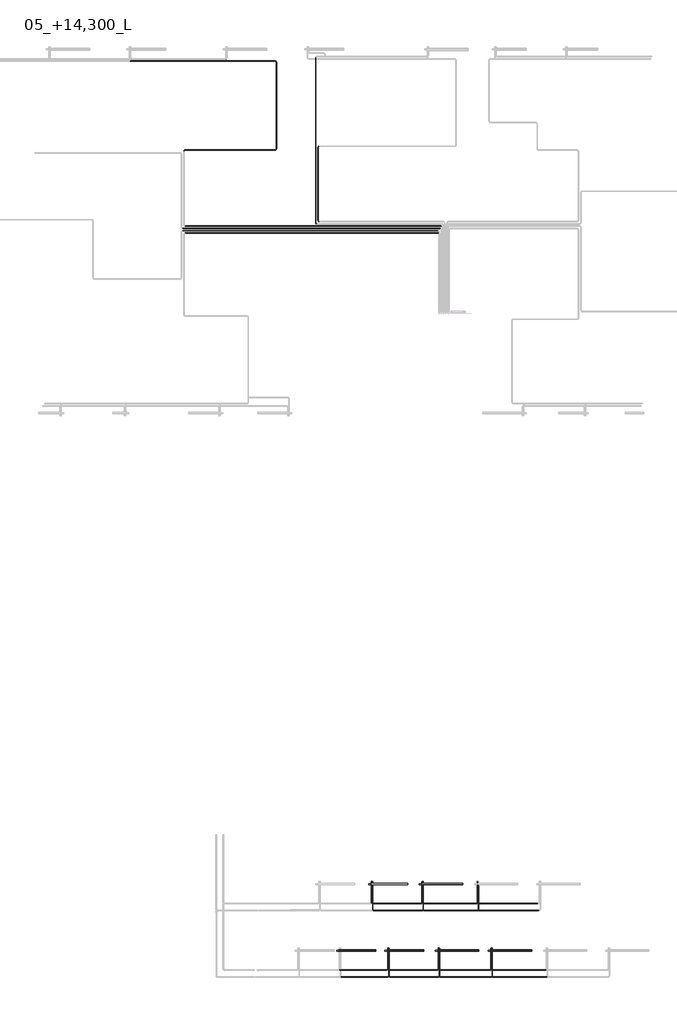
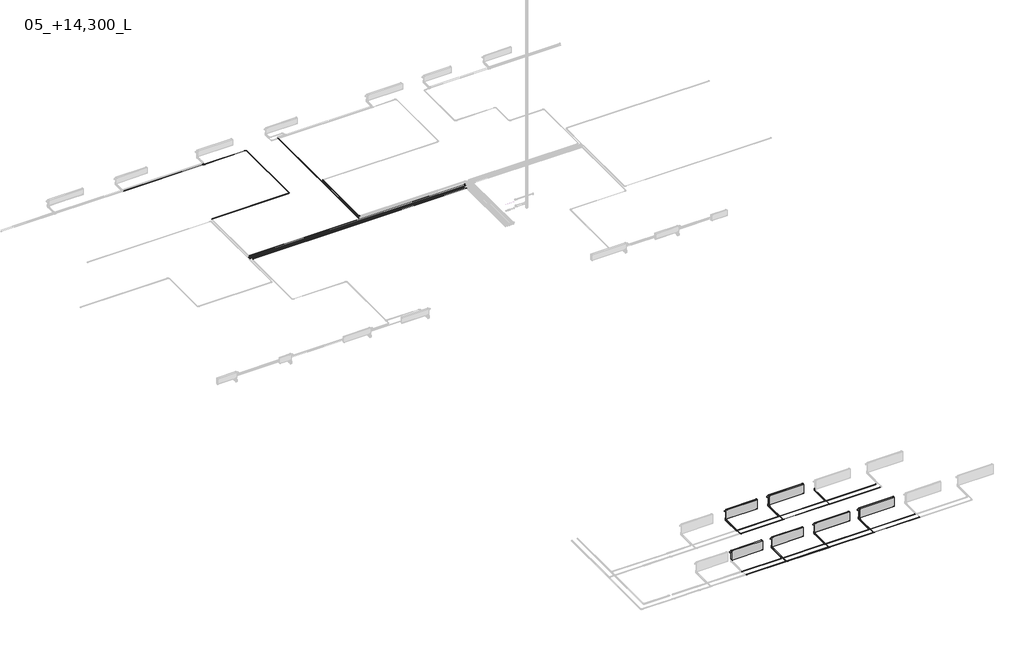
# One storey, part 8 of 15: 36 pipe segments, 18 pipe fittings, 6 proxies, 6 valves.
"""IFC4 building model written with IfcOpenShell, lengths in millimetres."""

from ifc_helpers import new_model, si_unit, point, frame, frame_2d, origin, place, context, project, spatial, circle_curve, trimmed, segment, composite_curve, outline, extrude, transform, mapped, element, save
from components import mechanical_equipment_88dabea2, mechanical_equipment_4d71ee0d, mechanical_equipment_2e3e853b, pipe_fitting_44bd76dc, pipe_fitting_8f811e63, pipe_fitting_d927fdfb, valve_d3faaedd, valve_8453c3c0

model = new_model("IFC4")

# Units and contexts
model_context = context("Model", 3, world=origin())
ifc_project = project(units=[si_unit("LENGTHUNIT", "METRE", prefix="MILLI")], contexts=[model_context])

# Site, building, storey
site = spatial("IfcSite", under=ifc_project)
building = spatial("IfcBuilding", under=site)
storey = spatial("IfcBuildingStorey", under=building, Name="05_+14,300_L", Elevation=14300.0)

# Proxies
placement = place(None, origin())
mechanical_equipment_shape = mechanical_equipment_88dabea2(model_context)
element("IfcBuildingElementProxy", 1, Name="EVRA CV Д : 11-500-1600", ObjectType="EVRA CV Д : 11-500-1600", at=placement, inside=storey, context=model_context, shape_type="MappedRepresentation", body=[
    mapped(mechanical_equipment_shape, transform((65435.0, 92114.7933297, 14300.0), x_axis=(1.0, 0.0, 0.0), y_axis=(0.0, 1.0, 0.0), z_axis=(0.0, 0.0, 1.0))),
])
element("IfcBuildingElementProxy", 2, Name="EVRA CV Д : 11-500-1600", ObjectType="EVRA CV Д : 11-500-1600", at=placement, inside=storey, context=model_context, shape_type="MappedRepresentation", body=[
    mapped(mechanical_equipment_shape, transform((66135.0, 89214.7933297, 14300.0), x_axis=(1.0, 0.0, 0.0), y_axis=(0.0, 1.0, 0.0), z_axis=(0.0, 0.0, 1.0))),
])
element("IfcBuildingElementProxy", 3, Name="EVRA CV Д : 11-500-1600", ObjectType="EVRA CV Д : 11-500-1600", at=placement, inside=storey, context=model_context, shape_type="MappedRepresentation", body=[
    mapped(mechanical_equipment_shape, transform((64035.0, 89214.7933297, 14300.0), x_axis=(1.0, 0.0, 0.0), y_axis=(0.0, 1.0, 0.0), z_axis=(0.0, 0.0, 1.0))),
])
mechanical_equipment_2_shape = mechanical_equipment_4d71ee0d(model_context)
element("IfcBuildingElementProxy", 4, Name="EVRA CV Д : 21-500-1800", ObjectType="EVRA CV Д : 21-500-1800", at=placement, inside=storey, context=model_context, shape_type="MappedRepresentation", body=[
    mapped(mechanical_equipment_2_shape, transform((67735.0, 92114.7933297, 14300.0), x_axis=(1.0, 0.0, 0.0), y_axis=(0.0, 1.0, 0.0), z_axis=(0.0, 0.0, 1.0))),
])
element("IfcBuildingElementProxy", 5, Name="EVRA CV Д : 21-500-1800", ObjectType="EVRA CV Д : 21-500-1800", at=placement, inside=storey, context=model_context, shape_type="MappedRepresentation", body=[
    mapped(mechanical_equipment_2_shape, transform((70735.0, 89214.7933297, 14300.0), x_axis=(1.0, 0.0, 0.0), y_axis=(0.0, 1.0, 0.0), z_axis=(0.0, 0.0, 1.0))),
])
mechanical_equipment_3_shape = mechanical_equipment_2e3e853b(model_context)
element("IfcBuildingElementProxy", 6, Name="EVRA CV Д : 11-500-1800", ObjectType="EVRA CV Д : 11-500-1800", at=placement, inside=storey, context=model_context, shape_type="MappedRepresentation", body=[
    mapped(mechanical_equipment_3_shape, transform((68435.0, 89214.7933297, 14300.0), x_axis=(1.0, 0.0, 0.0), y_axis=(0.0, 1.0, 0.0), z_axis=(0.0, 0.0, 1.0))),
])

# Pipe fittings
pipe_fitting_shape = pipe_fitting_44bd76dc(model_context)
element("IfcPipeFitting", 7, ObjectType="ADSK_Пресс-фитинг ПЭ_Тройник : Пластик черный", at=placement, inside=storey, context=model_context, shape_type="MappedRepresentation", body=[
    mapped(pipe_fitting_shape, transform((58530.0, 127900.0, 14250.0), x_axis=(1.0, 0.0, 0.0), y_axis=(0.0, -1.0, 0.0), z_axis=(0.0, 0.0, -1.0))),
])
pipe_fitting_2_shape = pipe_fitting_8f811e63(model_context)
element("IfcPipeFitting", 8, ObjectType="ADSK_Пресс-фитинг ПЭ_Поворот с фиксатором : Поворот трубы", at=placement, inside=storey, context=model_context, shape_type="MappedRepresentation", body=[
    mapped(pipe_fitting_2_shape, transform((60730.0, 127900.0, 14250.0), x_axis=(0.0, 1.0, 0.0), y_axis=(-1.0, 0.0, 0.0), z_axis=(0.0, 0.0, 1.0))),
])
element("IfcPipeFitting", 9, ObjectType="ADSK_Пресс-фитинг ПЭ_Поворот с фиксатором : Поворот трубы", at=placement, inside=storey, context=model_context, shape_type="MappedRepresentation", body=[
    mapped(pipe_fitting_2_shape, transform((62535.0, 124200.0, 14250.0), x_axis=(-1.0, 0.0, 0.0), y_axis=(0.0, -1.0, 0.0), z_axis=(0.0, 0.0, 1.0))),
])
element("IfcPipeFitting", 10, ObjectType="ADSK_Пресс-фитинг ПЭ_Поворот с фиксатором : Поворот трубы", at=placement, inside=storey, context=model_context, shape_type="MappedRepresentation", body=[
    mapped(pipe_fitting_2_shape, transform((62435.0, 120821.8369308, 14250.0), x_axis=(0.0, -1.0, 0.0), y_axis=(1.0, 0.0, 0.0), z_axis=(0.0, 0.0, 1.0))),
])
element("IfcPipeFitting", 11, ObjectType="ADSK_Пресс-фитинг ПЭ_Поворот с фиксатором : Поворот трубы", at=placement, inside=storey, context=model_context, shape_type="MappedRepresentation", body=[
    mapped(pipe_fitting_2_shape, transform((62535.0, 120921.8369308, 14250.0), x_axis=(0.0, -1.0, 0.0), y_axis=(1.0, 0.0, 0.0), z_axis=(0.0, 0.0, 1.0))),
])
element("IfcPipeFitting", 12, ObjectType="ADSK_Пресс-фитинг ПЭ_Поворот с фиксатором : Поворот трубы", at=placement, inside=storey, context=model_context, shape_type="MappedRepresentation", body=[
    mapped(pipe_fitting_2_shape, transform((60730.0, 124040.0, 14250.0), x_axis=(1.0, 0.0, 0.0), y_axis=(0.0, 1.0, 0.0), z_axis=(0.0, 0.0, 1.0))),
])
element("IfcPipeFitting", 13, ObjectType="ADSK_Пресс-фитинг ПЭ_Поворот с фиксатором : Поворот трубы", at=placement, inside=storey, context=model_context, shape_type="MappedRepresentation", body=[
    mapped(pipe_fitting_2_shape, transform((56700.0, 124040.0, 14250.0), x_axis=(-1.0, 0.0, 0.0), y_axis=(0.0, -1.0, 0.0), z_axis=(0.0, 0.0, 1.0))),
])
pipe_fitting_3_shape = pipe_fitting_d927fdfb(model_context)
element("IfcPipeFitting", 14, ObjectType="Трубка Г-образная VTm.481.PC из стены : VTm.481.PC", at=placement, inside=storey, context=model_context, shape_type="MappedRepresentation", body=[
    mapped(pipe_fitting_3_shape, transform((64865.0, 92164.2564399, 14250.0), x_axis=(1.0, 0.0, 0.0), y_axis=(0.0, 1.0, 0.0), z_axis=(0.0, 0.0, 1.0))),
])
element("IfcPipeFitting", 15, ObjectType="Трубка Г-образная VTm.481.PC из стены : VTm.481.PC", at=placement, inside=storey, context=model_context, shape_type="MappedRepresentation", body=[
    mapped(pipe_fitting_3_shape, transform((64915.0, 92164.2564399, 14250.0), x_axis=(1.0, 0.0, 0.0), y_axis=(0.0, 1.0, 0.0), z_axis=(0.0, 0.0, 1.0))),
])
element("IfcPipeFitting", 16, ObjectType="Трубка Г-образная VTm.481.PC из стены : VTm.481.PC", at=placement, inside=storey, context=model_context, shape_type="MappedRepresentation", body=[
    mapped(pipe_fitting_3_shape, transform((67065.0, 92164.2564399, 14250.0), x_axis=(1.0, 0.0, 0.0), y_axis=(0.0, 1.0, 0.0), z_axis=(0.0, 0.0, 1.0))),
])
element("IfcPipeFitting", 17, ObjectType="Трубка Г-образная VTm.481.PC из стены : VTm.481.PC", at=placement, inside=storey, context=model_context, shape_type="MappedRepresentation", body=[
    mapped(pipe_fitting_3_shape, transform((67115.0, 92164.2564399, 14250.0), x_axis=(1.0, 0.0, 0.0), y_axis=(0.0, 1.0, 0.0), z_axis=(0.0, 0.0, 1.0))),
])
element("IfcPipeFitting", 18, ObjectType="Трубка Г-образная VTm.481.PC из стены : VTm.481.PC", at=placement, inside=storey, context=model_context, shape_type="MappedRepresentation", body=[
    mapped(pipe_fitting_3_shape, transform((69465.0, 92164.2564399, 14250.0), x_axis=(1.0, 0.0, 0.0), y_axis=(0.0, 1.0, 0.0), z_axis=(0.0, 0.0, 1.0))),
])
element("IfcPipeFitting", 19, ObjectType="Трубка Г-образная VTm.481.PC из стены : VTm.481.PC", at=placement, inside=storey, context=model_context, shape_type="MappedRepresentation", body=[
    mapped(pipe_fitting_3_shape, transform((65565.0, 89264.2564399, 14250.0), x_axis=(1.0, 0.0, 0.0), y_axis=(0.0, 1.0, 0.0), z_axis=(0.0, 0.0, 1.0))),
])
element("IfcPipeFitting", 20, ObjectType="Трубка Г-образная VTm.481.PC из стены : VTm.481.PC", at=placement, inside=storey, context=model_context, shape_type="MappedRepresentation", body=[
    mapped(pipe_fitting_3_shape, transform((65615.0, 89264.2564399, 14250.0), x_axis=(1.0, 0.0, 0.0), y_axis=(0.0, 1.0, 0.0), z_axis=(0.0, 0.0, 1.0))),
])
element("IfcPipeFitting", 21, ObjectType="Трубка Г-образная VTm.481.PC из стены : VTm.481.PC", at=placement, inside=storey, context=model_context, shape_type="MappedRepresentation", body=[
    mapped(pipe_fitting_3_shape, transform((67765.0, 89264.2564399, 14250.0), x_axis=(1.0, 0.0, 0.0), y_axis=(0.0, 1.0, 0.0), z_axis=(0.0, 0.0, 1.0))),
])
element("IfcPipeFitting", 22, ObjectType="Трубка Г-образная VTm.481.PC из стены : VTm.481.PC", at=placement, inside=storey, context=model_context, shape_type="MappedRepresentation", body=[
    mapped(pipe_fitting_3_shape, transform((67815.0, 89264.2564399, 14250.0), x_axis=(1.0, 0.0, 0.0), y_axis=(0.0, 1.0, 0.0), z_axis=(0.0, 0.0, 1.0))),
])
element("IfcPipeFitting", 23, ObjectType="Трубка Г-образная VTm.481.PC из стены : VTm.481.PC", at=placement, inside=storey, context=model_context, shape_type="MappedRepresentation", body=[
    mapped(pipe_fitting_3_shape, transform((70065.0, 89264.2564399, 14250.0), x_axis=(1.0, 0.0, 0.0), y_axis=(0.0, 1.0, 0.0), z_axis=(0.0, 0.0, 1.0))),
])
element("IfcPipeFitting", 24, ObjectType="Трубка Г-образная VTm.481.PC из стены : VTm.481.PC", at=placement, inside=storey, context=model_context, shape_type="MappedRepresentation", body=[
    mapped(pipe_fitting_3_shape, transform((70115.0, 89264.2564399, 14250.0), x_axis=(1.0, 0.0, 0.0), y_axis=(0.0, 1.0, 0.0), z_axis=(0.0, 0.0, 1.0))),
])

# Pipe segments
element("IfcPipeSegment", 25, ObjectType="ADSK_Полиэтилен сшитый", at=placement, inside=storey, context=model_context, shape_type="SweptSolid", body=[
    extrude(outline(composite_curve([segment(trimmed(circle_curve(frame_2d((124040.0, 14250.0)), 8.0), [point((124048.0, 14250.0))], [point((124040.0, 14242.0))], False, "CARTESIAN"), True, "CONTINUOUS"), segment(trimmed(circle_curve(frame_2d((124040.0, 14250.0)), 8.0), [point((124040.0, 14242.0))], [point((124032.0, 14250.0))], False, "CARTESIAN"), True, "CONTINUOUS"), segment(trimmed(circle_curve(frame_2d((124040.0, 14250.0)), 8.0), [point((124032.0, 14250.0))], [point((124040.0, 14258.0))], False, "CARTESIAN"), True, "CONTINUOUS"), segment(trimmed(circle_curve(frame_2d((124040.0, 14250.0)), 8.0), [point((124040.0, 14258.0))], [point((124048.0, 14250.0))], False, "CARTESIAN"), True, "CONTINUOUS")], self_intersect=False)), frame((56748.0, 0.0, 0.0), z_axis=(1.0, 0.0, 0.0), x_axis=(0.0, 1.0, 0.0)), (0.0, 0.0, 1.0), 3934.0),
])
element("IfcPipeSegment", 26, ObjectType="ADSK_Полиэтилен сшитый", at=placement, inside=storey, context=model_context, shape_type="SweptSolid", body=[
    extrude(outline(composite_curve([segment(trimmed(circle_curve(frame_2d((14250.0, 60730.0)), 8.0), [point((14250.0, 60738.0))], [point((14258.0, 60730.0))], False, "CARTESIAN"), True, "CONTINUOUS"), segment(trimmed(circle_curve(frame_2d((14250.0, 60730.0)), 8.0), [point((14258.0, 60730.0))], [point((14250.0, 60722.0))], False, "CARTESIAN"), True, "CONTINUOUS"), segment(trimmed(circle_curve(frame_2d((14250.0, 60730.0)), 8.0), [point((14250.0, 60722.0))], [point((14242.0, 60730.0))], False, "CARTESIAN"), True, "CONTINUOUS"), segment(trimmed(circle_curve(frame_2d((14250.0, 60730.0)), 8.0), [point((14242.0, 60730.0))], [point((14250.0, 60738.0))], False, "CARTESIAN"), True, "CONTINUOUS")], self_intersect=False)), frame((0.0, 124088.0, 0.0), z_axis=(0.0, 1.0, 0.0), x_axis=(0.0, 0.0, 1.0)), (0.0, 0.0, 1.0), 3764.0),
])
element("IfcPipeSegment", 27, ObjectType="ADSK_Полиэтилен сшитый", at=placement, inside=storey, context=model_context, shape_type="SweptSolid", body=[
    extrude(outline(composite_curve([segment(trimmed(circle_curve(frame_2d((127900.0, 14250.0)), 8.0), [point((127908.0, 14250.0))], [point((127900.0, 14242.0))], False, "CARTESIAN"), True, "CONTINUOUS"), segment(trimmed(circle_curve(frame_2d((127900.0, 14250.0)), 8.0), [point((127900.0, 14242.0))], [point((127892.0, 14250.0))], False, "CARTESIAN"), True, "CONTINUOUS"), segment(trimmed(circle_curve(frame_2d((127900.0, 14250.0)), 8.0), [point((127892.0, 14250.0))], [point((127900.0, 14258.0))], False, "CARTESIAN"), True, "CONTINUOUS"), segment(trimmed(circle_curve(frame_2d((127900.0, 14250.0)), 8.0), [point((127900.0, 14258.0))], [point((127908.0, 14250.0))], False, "CARTESIAN"), True, "CONTINUOUS")], self_intersect=False)), frame((58549.0, 0.0, 0.0), z_axis=(1.0, 0.0, 0.0), x_axis=(0.0, 1.0, 0.0)), (0.0, 0.0, 1.0), 2133.0),
])
element("IfcPipeSegment", 28, ObjectType="ADSK_Полиэтилен сшитый", at=placement, inside=storey, context=model_context, shape_type="SweptSolid", body=[
    extrude(outline(composite_curve([segment(trimmed(circle_curve(frame_2d((14250.0, 62435.0)), 8.0), [point((14250.0, 62443.0))], [point((14258.0, 62435.0))], False, "CARTESIAN"), True, "CONTINUOUS"), segment(trimmed(circle_curve(frame_2d((14250.0, 62435.0)), 8.0), [point((14258.0, 62435.0))], [point((14250.0, 62427.0))], False, "CARTESIAN"), True, "CONTINUOUS"), segment(trimmed(circle_curve(frame_2d((14250.0, 62435.0)), 8.0), [point((14250.0, 62427.0))], [point((14242.0, 62435.0))], False, "CARTESIAN"), True, "CONTINUOUS"), segment(trimmed(circle_curve(frame_2d((14250.0, 62435.0)), 8.0), [point((14242.0, 62435.0))], [point((14250.0, 62443.0))], False, "CARTESIAN"), True, "CONTINUOUS")], self_intersect=False)), frame((0.0, 120869.8369308, 0.0), z_axis=(0.0, 1.0, 0.0), x_axis=(0.0, 0.0, 1.0)), (0.0, 0.0, 1.0), 7182.1630692),
])
element("IfcPipeSegment", 29, ObjectType="ADSK_Полиэтилен сшитый", at=placement, inside=storey, context=model_context, shape_type="SweptSolid", body=[
    extrude(outline(composite_curve([segment(trimmed(circle_curve(frame_2d((14250.0, 62535.0)), 8.0), [point((14250.0, 62543.0))], [point((14258.0, 62535.0))], False, "CARTESIAN"), True, "CONTINUOUS"), segment(trimmed(circle_curve(frame_2d((14250.0, 62535.0)), 8.0), [point((14258.0, 62535.0))], [point((14250.0, 62527.0))], False, "CARTESIAN"), True, "CONTINUOUS"), segment(trimmed(circle_curve(frame_2d((14250.0, 62535.0)), 8.0), [point((14250.0, 62527.0))], [point((14242.0, 62535.0))], False, "CARTESIAN"), True, "CONTINUOUS"), segment(trimmed(circle_curve(frame_2d((14250.0, 62535.0)), 8.0), [point((14242.0, 62535.0))], [point((14250.0, 62543.0))], False, "CARTESIAN"), True, "CONTINUOUS")], self_intersect=False)), frame((0.0, 120969.8369308, 0.0), z_axis=(0.0, 1.0, 0.0), x_axis=(0.0, 0.0, 1.0)), (0.0, 0.0, 1.0), 3182.1630692),
])
element("IfcPipeSegment", 30, ObjectType="ADSK_Полиэтилен сшитый", at=placement, inside=storey, context=model_context, shape_type="SweptSolid", body=[
    extrude(outline(composite_curve([segment(trimmed(circle_curve(frame_2d((120721.8369308, 14250.0)), 8.0), [point((120729.8369308, 14250.0))], [point((120721.8369308, 14242.0))], False, "CARTESIAN"), True, "CONTINUOUS"), segment(trimmed(circle_curve(frame_2d((120721.8369308, 14250.0)), 8.0), [point((120721.8369308, 14242.0))], [point((120713.8369308, 14250.0))], False, "CARTESIAN"), True, "CONTINUOUS"), segment(trimmed(circle_curve(frame_2d((120721.8369308, 14250.0)), 8.0), [point((120713.8369308, 14250.0))], [point((120721.8369308, 14258.0))], False, "CARTESIAN"), True, "CONTINUOUS"), segment(trimmed(circle_curve(frame_2d((120721.8369308, 14250.0)), 8.0), [point((120721.8369308, 14258.0))], [point((120729.8369308, 14250.0))], False, "CARTESIAN"), True, "CONTINUOUS")], self_intersect=False)), frame((56748.0, 0.0, 0.0), z_axis=(1.0, 0.0, 0.0), x_axis=(0.0, 1.0, 0.0)), (0.0, 0.0, 1.0), 11149.0),
])
element("IfcPipeSegment", 31, ObjectType="ADSK_Полиэтилен сшитый", at=placement, inside=storey, context=model_context, shape_type="SweptSolid", body=[
    extrude(outline(composite_curve([segment(trimmed(circle_curve(frame_2d((120621.8369308, 14250.0)), 8.0), [point((120629.8369308, 14250.0))], [point((120621.8369308, 14242.0))], False, "CARTESIAN"), True, "CONTINUOUS"), segment(trimmed(circle_curve(frame_2d((120621.8369308, 14250.0)), 8.0), [point((120621.8369308, 14242.0))], [point((120613.8369308, 14250.0))], False, "CARTESIAN"), True, "CONTINUOUS"), segment(trimmed(circle_curve(frame_2d((120621.8369308, 14250.0)), 8.0), [point((120613.8369308, 14250.0))], [point((120621.8369308, 14258.0))], False, "CARTESIAN"), True, "CONTINUOUS"), segment(trimmed(circle_curve(frame_2d((120621.8369308, 14250.0)), 8.0), [point((120621.8369308, 14258.0))], [point((120629.8369308, 14250.0))], False, "CARTESIAN"), True, "CONTINUOUS")], self_intersect=False)), frame((56648.0, 0.0, 0.0), z_axis=(1.0, 0.0, 0.0), x_axis=(0.0, 1.0, 0.0)), (0.0, 0.0, 1.0), 11199.0),
])
element("IfcPipeSegment", 32, ObjectType="ADSK_Полиэтилен сшитый", at=placement, inside=storey, context=model_context, shape_type="SweptSolid", body=[
    extrude(outline(composite_curve([segment(trimmed(circle_curve(frame_2d((120521.8369308, 14250.0)), 8.0), [point((120529.8369308, 14250.0))], [point((120521.8369308, 14242.0))], False, "CARTESIAN"), True, "CONTINUOUS"), segment(trimmed(circle_curve(frame_2d((120521.8369308, 14250.0)), 8.0), [point((120521.8369308, 14242.0))], [point((120513.8369308, 14250.0))], False, "CARTESIAN"), True, "CONTINUOUS"), segment(trimmed(circle_curve(frame_2d((120521.8369308, 14250.0)), 8.0), [point((120513.8369308, 14250.0))], [point((120521.8369308, 14258.0))], False, "CARTESIAN"), True, "CONTINUOUS"), segment(trimmed(circle_curve(frame_2d((120521.8369308, 14250.0)), 8.0), [point((120521.8369308, 14258.0))], [point((120529.8369308, 14250.0))], False, "CARTESIAN"), True, "CONTINUOUS")], self_intersect=False)), frame((56648.0, 0.0, 0.0), z_axis=(1.0, 0.0, 0.0), x_axis=(0.0, 1.0, 0.0)), (0.0, 0.0, 1.0), 11099.0),
])
element("IfcPipeSegment", 33, ObjectType="ADSK_Полиэтилен сшитый", at=placement, inside=storey, context=model_context, shape_type="SweptSolid", body=[
    extrude(outline(composite_curve([segment(trimmed(circle_curve(frame_2d((120421.8369308, 14250.0)), 8.0), [point((120429.8369308, 14250.0))], [point((120421.8369308, 14242.0))], False, "CARTESIAN"), True, "CONTINUOUS"), segment(trimmed(circle_curve(frame_2d((120421.8369308, 14250.0)), 8.0), [point((120421.8369308, 14242.0))], [point((120413.8369308, 14250.0))], False, "CARTESIAN"), True, "CONTINUOUS"), segment(trimmed(circle_curve(frame_2d((120421.8369308, 14250.0)), 8.0), [point((120413.8369308, 14250.0))], [point((120421.8369308, 14258.0))], False, "CARTESIAN"), True, "CONTINUOUS"), segment(trimmed(circle_curve(frame_2d((120421.8369308, 14250.0)), 8.0), [point((120421.8369308, 14258.0))], [point((120429.8369308, 14250.0))], False, "CARTESIAN"), True, "CONTINUOUS")], self_intersect=False)), frame((56748.0, 0.0, 0.0), z_axis=(1.0, 0.0, 0.0), x_axis=(0.0, 1.0, 0.0)), (0.0, 0.0, 1.0), 11049.0),
])
element("IfcPipeSegment", 34, ObjectType="ADSK_Полиэтилен сшитый", at=placement, inside=storey, context=model_context, shape_type="SweptSolid", body=[
    extrude(outline(composite_curve([segment(trimmed(circle_curve(frame_2d((127900.0, 14250.0)), 8.0), [point((127908.0, 14250.0))], [point((127900.0, 14242.0))], False, "CARTESIAN"), True, "CONTINUOUS"), segment(trimmed(circle_curve(frame_2d((127900.0, 14250.0)), 8.0), [point((127900.0, 14242.0))], [point((127892.0, 14250.0))], False, "CARTESIAN"), True, "CONTINUOUS"), segment(trimmed(circle_curve(frame_2d((127900.0, 14250.0)), 8.0), [point((127892.0, 14250.0))], [point((127900.0, 14258.0))], False, "CARTESIAN"), True, "CONTINUOUS"), segment(trimmed(circle_curve(frame_2d((127900.0, 14250.0)), 8.0), [point((127900.0, 14258.0))], [point((127908.0, 14250.0))], False, "CARTESIAN"), True, "CONTINUOUS")], self_intersect=False)), frame((54350.0, 0.0, 0.0), z_axis=(1.0, 0.0, 0.0), x_axis=(0.0, 1.0, 0.0)), (0.0, 0.0, 1.0), 4161.0),
])
element("IfcPipeSegment", 35, ObjectType="ADSK_Полиэтилен сшитый", at=placement, inside=storey, context=model_context, shape_type="SweptSolid", body=[
    extrude(outline(composite_curve([segment(trimmed(circle_curve(frame_2d((14250.0, 64915.0)), 8.0), [point((14250.0, 64923.0))], [point((14258.0, 64915.0))], False, "CARTESIAN"), True, "CONTINUOUS"), segment(trimmed(circle_curve(frame_2d((14250.0, 64915.0)), 8.0), [point((14258.0, 64915.0))], [point((14250.0, 64907.0))], False, "CARTESIAN"), True, "CONTINUOUS"), segment(trimmed(circle_curve(frame_2d((14250.0, 64915.0)), 8.0), [point((14250.0, 64907.0))], [point((14242.0, 64915.0))], False, "CARTESIAN"), True, "CONTINUOUS"), segment(trimmed(circle_curve(frame_2d((14250.0, 64915.0)), 8.0), [point((14242.0, 64915.0))], [point((14250.0, 64923.0))], False, "CARTESIAN"), True, "CONTINUOUS")], self_intersect=False)), frame((0.0, 90978.2564399, 0.0), z_axis=(0.0, 1.0, 0.0), x_axis=(0.0, 0.0, 1.0)), (0.0, 0.0, 1.0), 1071.0),
])
element("IfcPipeSegment", 36, ObjectType="ADSK_Полиэтилен сшитый", at=placement, inside=storey, context=model_context, shape_type="SweptSolid", body=[
    extrude(outline(composite_curve([segment(trimmed(circle_curve(frame_2d((14250.0, 64865.0)), 8.0), [point((14250.0, 64873.0))], [point((14258.0, 64865.0))], False, "CARTESIAN"), True, "CONTINUOUS"), segment(trimmed(circle_curve(frame_2d((14250.0, 64865.0)), 8.0), [point((14258.0, 64865.0))], [point((14250.0, 64857.0))], False, "CARTESIAN"), True, "CONTINUOUS"), segment(trimmed(circle_curve(frame_2d((14250.0, 64865.0)), 8.0), [point((14250.0, 64857.0))], [point((14242.0, 64865.0))], False, "CARTESIAN"), True, "CONTINUOUS"), segment(trimmed(circle_curve(frame_2d((14250.0, 64865.0)), 8.0), [point((14242.0, 64865.0))], [point((14250.0, 64873.0))], False, "CARTESIAN"), True, "CONTINUOUS")], self_intersect=False)), frame((0.0, 91278.2564399, 0.0), z_axis=(0.0, 1.0, 0.0), x_axis=(0.0, 0.0, 1.0)), (0.0, 0.0, 1.0), 771.0),
])
element("IfcPipeSegment", 37, ObjectType="ADSK_Полиэтилен сшитый", at=placement, inside=storey, context=model_context, shape_type="SweptSolid", body=[
    extrude(outline(composite_curve([segment(trimmed(circle_curve(frame_2d((14250.0, 67115.0)), 8.0), [point((14250.0, 67123.0))], [point((14258.0, 67115.0))], False, "CARTESIAN"), True, "CONTINUOUS"), segment(trimmed(circle_curve(frame_2d((14250.0, 67115.0)), 8.0), [point((14258.0, 67115.0))], [point((14250.0, 67107.0))], False, "CARTESIAN"), True, "CONTINUOUS"), segment(trimmed(circle_curve(frame_2d((14250.0, 67115.0)), 8.0), [point((14250.0, 67107.0))], [point((14242.0, 67115.0))], False, "CARTESIAN"), True, "CONTINUOUS"), segment(trimmed(circle_curve(frame_2d((14250.0, 67115.0)), 8.0), [point((14242.0, 67115.0))], [point((14250.0, 67123.0))], False, "CARTESIAN"), True, "CONTINUOUS")], self_intersect=False)), frame((0.0, 90978.2564399, 0.0), z_axis=(0.0, 1.0, 0.0), x_axis=(0.0, 0.0, 1.0)), (0.0, 0.0, 1.0), 1071.0),
])
element("IfcPipeSegment", 38, ObjectType="ADSK_Полиэтилен сшитый", at=placement, inside=storey, context=model_context, shape_type="SweptSolid", body=[
    extrude(outline(composite_curve([segment(trimmed(circle_curve(frame_2d((14250.0, 67065.0)), 8.0), [point((14250.0, 67073.0))], [point((14258.0, 67065.0))], False, "CARTESIAN"), True, "CONTINUOUS"), segment(trimmed(circle_curve(frame_2d((14250.0, 67065.0)), 8.0), [point((14258.0, 67065.0))], [point((14250.0, 67057.0))], False, "CARTESIAN"), True, "CONTINUOUS"), segment(trimmed(circle_curve(frame_2d((14250.0, 67065.0)), 8.0), [point((14250.0, 67057.0))], [point((14242.0, 67065.0))], False, "CARTESIAN"), True, "CONTINUOUS"), segment(trimmed(circle_curve(frame_2d((14250.0, 67065.0)), 8.0), [point((14242.0, 67065.0))], [point((14250.0, 67073.0))], False, "CARTESIAN"), True, "CONTINUOUS")], self_intersect=False)), frame((0.0, 91278.2564399, 0.0), z_axis=(0.0, 1.0, 0.0), x_axis=(0.0, 0.0, 1.0)), (0.0, 0.0, 1.0), 771.0),
])
element("IfcPipeSegment", 39, ObjectType="ADSK_Полиэтилен сшитый", at=placement, inside=storey, context=model_context, shape_type="SweptSolid", body=[
    extrude(outline(composite_curve([segment(trimmed(circle_curve(frame_2d((14250.0, 69515.0)), 8.0), [point((14250.0, 69523.0))], [point((14258.0, 69515.0))], False, "CARTESIAN"), True, "CONTINUOUS"), segment(trimmed(circle_curve(frame_2d((14250.0, 69515.0)), 8.0), [point((14258.0, 69515.0))], [point((14250.0, 69507.0))], False, "CARTESIAN"), True, "CONTINUOUS"), segment(trimmed(circle_curve(frame_2d((14250.0, 69515.0)), 8.0), [point((14250.0, 69507.0))], [point((14242.0, 69515.0))], False, "CARTESIAN"), True, "CONTINUOUS"), segment(trimmed(circle_curve(frame_2d((14250.0, 69515.0)), 8.0), [point((14242.0, 69515.0))], [point((14250.0, 69523.0))], False, "CARTESIAN"), True, "CONTINUOUS")], self_intersect=False)), frame((0.0, 90975.2564399, 0.0), z_axis=(0.0, 1.0, 0.0), x_axis=(0.0, 0.0, 1.0)), (0.0, 0.0, 1.0), 1074.0),
])
element("IfcPipeSegment", 40, ObjectType="ADSK_Полиэтилен сшитый", at=placement, inside=storey, context=model_context, shape_type="SweptSolid", body=[
    extrude(outline(composite_curve([segment(trimmed(circle_curve(frame_2d((14250.0, 69465.0)), 8.0), [point((14250.0, 69473.0))], [point((14258.0, 69465.0))], False, "CARTESIAN"), True, "CONTINUOUS"), segment(trimmed(circle_curve(frame_2d((14250.0, 69465.0)), 8.0), [point((14258.0, 69465.0))], [point((14250.0, 69457.0))], False, "CARTESIAN"), True, "CONTINUOUS"), segment(trimmed(circle_curve(frame_2d((14250.0, 69465.0)), 8.0), [point((14250.0, 69457.0))], [point((14242.0, 69465.0))], False, "CARTESIAN"), True, "CONTINUOUS"), segment(trimmed(circle_curve(frame_2d((14250.0, 69465.0)), 8.0), [point((14242.0, 69465.0))], [point((14250.0, 69473.0))], False, "CARTESIAN"), True, "CONTINUOUS")], self_intersect=False)), frame((0.0, 91275.2564399, 0.0), z_axis=(0.0, 1.0, 0.0), x_axis=(0.0, 0.0, 1.0)), (0.0, 0.0, 1.0), 774.0),
])
element("IfcPipeSegment", 41, ObjectType="ADSK_Полиэтилен сшитый", at=placement, inside=storey, context=model_context, shape_type="SweptSolid", body=[
    extrude(outline(composite_curve([segment(trimmed(circle_curve(frame_2d((90949.2564399, 14250.0)), 12.5), [point((90961.7564399, 14250.0))], [point((90949.2564399, 14237.5))], False, "CARTESIAN"), True, "CONTINUOUS"), segment(trimmed(circle_curve(frame_2d((90949.2564399, 14250.0)), 12.5), [point((90949.2564399, 14237.5))], [point((90936.7564399, 14250.0))], False, "CARTESIAN"), True, "CONTINUOUS"), segment(trimmed(circle_curve(frame_2d((90949.2564399, 14250.0)), 12.5), [point((90936.7564399, 14250.0))], [point((90949.2564399, 14262.5))], False, "CARTESIAN"), True, "CONTINUOUS"), segment(trimmed(circle_curve(frame_2d((90949.2564399, 14250.0)), 12.5), [point((90949.2564399, 14262.5))], [point((90961.7564399, 14250.0))], False, "CARTESIAN"), True, "CONTINUOUS")], self_intersect=False)), frame((64935.0, 0.0, 0.0), z_axis=(1.0, 0.0, 0.0), x_axis=(0.0, 1.0, 0.0)), (0.0, 0.0, 1.0), 2160.0),
])
element("IfcPipeSegment", 42, ObjectType="ADSK_Полиэтилен сшитый", at=placement, inside=storey, context=model_context, shape_type="SweptSolid", body=[
    extrude(outline(composite_curve([segment(trimmed(circle_curve(frame_2d((90949.2564399, 14250.0)), 10.0), [point((90959.2564399, 14250.0))], [point((90949.2564399, 14240.0))], False, "CARTESIAN"), True, "CONTINUOUS"), segment(trimmed(circle_curve(frame_2d((90949.2564399, 14250.0)), 10.0), [point((90949.2564399, 14240.0))], [point((90939.2564399, 14250.0))], False, "CARTESIAN"), True, "CONTINUOUS"), segment(trimmed(circle_curve(frame_2d((90949.2564399, 14250.0)), 10.0), [point((90939.2564399, 14250.0))], [point((90949.2564399, 14260.0))], False, "CARTESIAN"), True, "CONTINUOUS"), segment(trimmed(circle_curve(frame_2d((90949.2564399, 14250.0)), 10.0), [point((90949.2564399, 14260.0))], [point((90959.2564399, 14250.0))], False, "CARTESIAN"), True, "CONTINUOUS")], self_intersect=False)), frame((67134.0, 0.0, 0.0), z_axis=(1.0, 0.0, 0.0), x_axis=(0.0, 1.0, 0.0)), (0.0, 0.0, 1.0), 2362.0),
])
element("IfcPipeSegment", 43, ObjectType="ADSK_Полиэтилен сшитый", at=placement, inside=storey, context=model_context, shape_type="SweptSolid", body=[
    extrude(outline(composite_curve([segment(trimmed(circle_curve(frame_2d((90949.2564399, 14250.0)), 8.0), [point((90957.2564399, 14250.0))], [point((90949.2564399, 14242.0))], False, "CARTESIAN"), True, "CONTINUOUS"), segment(trimmed(circle_curve(frame_2d((90949.2564399, 14250.0)), 8.0), [point((90949.2564399, 14242.0))], [point((90941.2564399, 14250.0))], False, "CARTESIAN"), True, "CONTINUOUS"), segment(trimmed(circle_curve(frame_2d((90949.2564399, 14250.0)), 8.0), [point((90941.2564399, 14250.0))], [point((90949.2564399, 14258.0))], False, "CARTESIAN"), True, "CONTINUOUS"), segment(trimmed(circle_curve(frame_2d((90949.2564399, 14250.0)), 8.0), [point((90949.2564399, 14258.0))], [point((90957.2564399, 14250.0))], False, "CARTESIAN"), True, "CONTINUOUS")], self_intersect=False)), frame((69534.0, 0.0, 0.0), z_axis=(1.0, 0.0, 0.0), x_axis=(0.0, 1.0, 0.0)), (0.0, 0.0, 1.0), 2633.0),
])
element("IfcPipeSegment", 44, ObjectType="ADSK_Полиэтилен сшитый", at=placement, inside=storey, context=model_context, shape_type="SweptSolid", body=[
    extrude(outline(composite_curve([segment(trimmed(circle_curve(frame_2d((91249.2564399, 14250.0)), 12.5), [point((91261.7564399, 14250.0))], [point((91249.2564399, 14237.5))], False, "CARTESIAN"), True, "CONTINUOUS"), segment(trimmed(circle_curve(frame_2d((91249.2564399, 14250.0)), 12.5), [point((91249.2564399, 14237.5))], [point((91236.7564399, 14250.0))], False, "CARTESIAN"), True, "CONTINUOUS"), segment(trimmed(circle_curve(frame_2d((91249.2564399, 14250.0)), 12.5), [point((91236.7564399, 14250.0))], [point((91249.2564399, 14262.5))], False, "CARTESIAN"), True, "CONTINUOUS"), segment(trimmed(circle_curve(frame_2d((91249.2564399, 14250.0)), 12.5), [point((91249.2564399, 14262.5))], [point((91261.7564399, 14250.0))], False, "CARTESIAN"), True, "CONTINUOUS")], self_intersect=False)), frame((64885.0, 0.0, 0.0), z_axis=(1.0, 0.0, 0.0), x_axis=(0.0, 1.0, 0.0)), (0.0, 0.0, 1.0), 2160.0),
])
element("IfcPipeSegment", 45, ObjectType="ADSK_Полиэтилен сшитый", at=placement, inside=storey, context=model_context, shape_type="SweptSolid", body=[
    extrude(outline(composite_curve([segment(trimmed(circle_curve(frame_2d((91249.2564399, 14250.0)), 10.0), [point((91259.2564399, 14250.0))], [point((91249.2564399, 14240.0))], False, "CARTESIAN"), True, "CONTINUOUS"), segment(trimmed(circle_curve(frame_2d((91249.2564399, 14250.0)), 10.0), [point((91249.2564399, 14240.0))], [point((91239.2564399, 14250.0))], False, "CARTESIAN"), True, "CONTINUOUS"), segment(trimmed(circle_curve(frame_2d((91249.2564399, 14250.0)), 10.0), [point((91239.2564399, 14250.0))], [point((91249.2564399, 14260.0))], False, "CARTESIAN"), True, "CONTINUOUS"), segment(trimmed(circle_curve(frame_2d((91249.2564399, 14250.0)), 10.0), [point((91249.2564399, 14260.0))], [point((91259.2564399, 14250.0))], False, "CARTESIAN"), True, "CONTINUOUS")], self_intersect=False)), frame((67084.0, 0.0, 0.0), z_axis=(1.0, 0.0, 0.0), x_axis=(0.0, 1.0, 0.0)), (0.0, 0.0, 1.0), 2362.0),
])
element("IfcPipeSegment", 46, ObjectType="ADSK_Полиэтилен сшитый", at=placement, inside=storey, context=model_context, shape_type="SweptSolid", body=[
    extrude(outline(composite_curve([segment(trimmed(circle_curve(frame_2d((91249.2564399, 14250.0)), 8.0), [point((91257.2564399, 14250.0))], [point((91249.2564399, 14242.0))], False, "CARTESIAN"), True, "CONTINUOUS"), segment(trimmed(circle_curve(frame_2d((91249.2564399, 14250.0)), 8.0), [point((91249.2564399, 14242.0))], [point((91241.2564399, 14250.0))], False, "CARTESIAN"), True, "CONTINUOUS"), segment(trimmed(circle_curve(frame_2d((91249.2564399, 14250.0)), 8.0), [point((91241.2564399, 14250.0))], [point((91249.2564399, 14258.0))], False, "CARTESIAN"), True, "CONTINUOUS"), segment(trimmed(circle_curve(frame_2d((91249.2564399, 14250.0)), 8.0), [point((91249.2564399, 14258.0))], [point((91257.2564399, 14250.0))], False, "CARTESIAN"), True, "CONTINUOUS")], self_intersect=False)), frame((69484.0, 0.0, 0.0), z_axis=(1.0, 0.0, 0.0), x_axis=(0.0, 1.0, 0.0)), (0.0, 0.0, 1.0), 2633.0),
])
element("IfcPipeSegment", 47, ObjectType="ADSK_Полиэтилен сшитый", at=placement, inside=storey, context=model_context, shape_type="SweptSolid", body=[
    extrude(outline(composite_curve([segment(trimmed(circle_curve(frame_2d((14250.0, 65615.0)), 8.0), [point((14250.0, 65623.0))], [point((14258.0, 65615.0))], False, "CARTESIAN"), True, "CONTINUOUS"), segment(trimmed(circle_curve(frame_2d((14250.0, 65615.0)), 8.0), [point((14258.0, 65615.0))], [point((14250.0, 65607.0))], False, "CARTESIAN"), True, "CONTINUOUS"), segment(trimmed(circle_curve(frame_2d((14250.0, 65615.0)), 8.0), [point((14250.0, 65607.0))], [point((14242.0, 65615.0))], False, "CARTESIAN"), True, "CONTINUOUS"), segment(trimmed(circle_curve(frame_2d((14250.0, 65615.0)), 8.0), [point((14242.0, 65615.0))], [point((14250.0, 65623.0))], False, "CARTESIAN"), True, "CONTINUOUS")], self_intersect=False)), frame((0.0, 88068.4564399, 0.0), z_axis=(0.0, 1.0, 0.0), x_axis=(0.0, 0.0, 1.0)), (0.0, 0.0, 1.0), 1080.8),
])
element("IfcPipeSegment", 48, ObjectType="ADSK_Полиэтилен сшитый", at=placement, inside=storey, context=model_context, shape_type="SweptSolid", body=[
    extrude(outline(composite_curve([segment(trimmed(circle_curve(frame_2d((14250.0, 65565.0)), 8.0), [point((14250.0, 65573.0))], [point((14258.0, 65565.0))], False, "CARTESIAN"), True, "CONTINUOUS"), segment(trimmed(circle_curve(frame_2d((14250.0, 65565.0)), 8.0), [point((14258.0, 65565.0))], [point((14250.0, 65557.0))], False, "CARTESIAN"), True, "CONTINUOUS"), segment(trimmed(circle_curve(frame_2d((14250.0, 65565.0)), 8.0), [point((14250.0, 65557.0))], [point((14242.0, 65565.0))], False, "CARTESIAN"), True, "CONTINUOUS"), segment(trimmed(circle_curve(frame_2d((14250.0, 65565.0)), 8.0), [point((14242.0, 65565.0))], [point((14250.0, 65573.0))], False, "CARTESIAN"), True, "CONTINUOUS")], self_intersect=False)), frame((0.0, 88368.4564399, 0.0), z_axis=(0.0, 1.0, 0.0), x_axis=(0.0, 0.0, 1.0)), (0.0, 0.0, 1.0), 780.8),
])
element("IfcPipeSegment", 49, ObjectType="ADSK_Полиэтилен сшитый", at=placement, inside=storey, context=model_context, shape_type="SweptSolid", body=[
    extrude(outline(composite_curve([segment(trimmed(circle_curve(frame_2d((14250.0, 67815.0)), 8.0), [point((14250.0, 67823.0))], [point((14258.0, 67815.0))], False, "CARTESIAN"), True, "CONTINUOUS"), segment(trimmed(circle_curve(frame_2d((14250.0, 67815.0)), 8.0), [point((14258.0, 67815.0))], [point((14250.0, 67807.0))], False, "CARTESIAN"), True, "CONTINUOUS"), segment(trimmed(circle_curve(frame_2d((14250.0, 67815.0)), 8.0), [point((14250.0, 67807.0))], [point((14242.0, 67815.0))], False, "CARTESIAN"), True, "CONTINUOUS"), segment(trimmed(circle_curve(frame_2d((14250.0, 67815.0)), 8.0), [point((14242.0, 67815.0))], [point((14250.0, 67823.0))], False, "CARTESIAN"), True, "CONTINUOUS")], self_intersect=False)), frame((0.0, 88078.2564399, 0.0), z_axis=(0.0, 1.0, 0.0), x_axis=(0.0, 0.0, 1.0)), (0.0, 0.0, 1.0), 1071.0),
])
element("IfcPipeSegment", 50, ObjectType="ADSK_Полиэтилен сшитый", at=placement, inside=storey, context=model_context, shape_type="SweptSolid", body=[
    extrude(outline(composite_curve([segment(trimmed(circle_curve(frame_2d((14250.0, 67765.0)), 8.0), [point((14250.0, 67773.0))], [point((14258.0, 67765.0))], False, "CARTESIAN"), True, "CONTINUOUS"), segment(trimmed(circle_curve(frame_2d((14250.0, 67765.0)), 8.0), [point((14258.0, 67765.0))], [point((14250.0, 67757.0))], False, "CARTESIAN"), True, "CONTINUOUS"), segment(trimmed(circle_curve(frame_2d((14250.0, 67765.0)), 8.0), [point((14250.0, 67757.0))], [point((14242.0, 67765.0))], False, "CARTESIAN"), True, "CONTINUOUS"), segment(trimmed(circle_curve(frame_2d((14250.0, 67765.0)), 8.0), [point((14242.0, 67765.0))], [point((14250.0, 67773.0))], False, "CARTESIAN"), True, "CONTINUOUS")], self_intersect=False)), frame((0.0, 88378.2564399, 0.0), z_axis=(0.0, 1.0, 0.0), x_axis=(0.0, 0.0, 1.0)), (0.0, 0.0, 1.0), 771.0),
])
element("IfcPipeSegment", 51, ObjectType="ADSK_Полиэтилен сшитый", at=placement, inside=storey, context=model_context, shape_type="SweptSolid", body=[
    extrude(outline(composite_curve([segment(trimmed(circle_curve(frame_2d((14250.0, 70115.0)), 8.0), [point((14250.0, 70123.0))], [point((14258.0, 70115.0))], False, "CARTESIAN"), True, "CONTINUOUS"), segment(trimmed(circle_curve(frame_2d((14250.0, 70115.0)), 8.0), [point((14258.0, 70115.0))], [point((14250.0, 70107.0))], False, "CARTESIAN"), True, "CONTINUOUS"), segment(trimmed(circle_curve(frame_2d((14250.0, 70115.0)), 8.0), [point((14250.0, 70107.0))], [point((14242.0, 70115.0))], False, "CARTESIAN"), True, "CONTINUOUS"), segment(trimmed(circle_curve(frame_2d((14250.0, 70115.0)), 8.0), [point((14242.0, 70115.0))], [point((14250.0, 70123.0))], False, "CARTESIAN"), True, "CONTINUOUS")], self_intersect=False)), frame((0.0, 88078.2564399, 0.0), z_axis=(0.0, 1.0, 0.0), x_axis=(0.0, 0.0, 1.0)), (0.0, 0.0, 1.0), 1071.0),
])
element("IfcPipeSegment", 52, ObjectType="ADSK_Полиэтилен сшитый", at=placement, inside=storey, context=model_context, shape_type="SweptSolid", body=[
    extrude(outline(composite_curve([segment(trimmed(circle_curve(frame_2d((14250.0, 70065.0)), 8.0), [point((14250.0, 70073.0))], [point((14258.0, 70065.0))], False, "CARTESIAN"), True, "CONTINUOUS"), segment(trimmed(circle_curve(frame_2d((14250.0, 70065.0)), 8.0), [point((14258.0, 70065.0))], [point((14250.0, 70057.0))], False, "CARTESIAN"), True, "CONTINUOUS"), segment(trimmed(circle_curve(frame_2d((14250.0, 70065.0)), 8.0), [point((14250.0, 70057.0))], [point((14242.0, 70065.0))], False, "CARTESIAN"), True, "CONTINUOUS"), segment(trimmed(circle_curve(frame_2d((14250.0, 70065.0)), 8.0), [point((14242.0, 70065.0))], [point((14250.0, 70073.0))], False, "CARTESIAN"), True, "CONTINUOUS")], self_intersect=False)), frame((0.0, 88378.2564399, 0.0), z_axis=(0.0, 1.0, 0.0), x_axis=(0.0, 0.0, 1.0)), (0.0, 0.0, 1.0), 771.0),
])
element("IfcPipeSegment", 53, ObjectType="ADSK_Полиэтилен сшитый", at=placement, inside=storey, context=model_context, shape_type="SweptSolid", body=[
    extrude(outline(composite_curve([segment(trimmed(circle_curve(frame_2d((88049.2564399, 14250.0)), 12.5), [point((88061.7564399, 14250.0))], [point((88049.2564399, 14237.5))], False, "CARTESIAN"), True, "CONTINUOUS"), segment(trimmed(circle_curve(frame_2d((88049.2564399, 14250.0)), 12.5), [point((88049.2564399, 14237.5))], [point((88036.7564399, 14250.0))], False, "CARTESIAN"), True, "CONTINUOUS"), segment(trimmed(circle_curve(frame_2d((88049.2564399, 14250.0)), 12.5), [point((88036.7564399, 14250.0))], [point((88049.2564399, 14262.5))], False, "CARTESIAN"), True, "CONTINUOUS"), segment(trimmed(circle_curve(frame_2d((88049.2564399, 14250.0)), 12.5), [point((88049.2564399, 14262.5))], [point((88061.7564399, 14250.0))], False, "CARTESIAN"), True, "CONTINUOUS")], self_intersect=False)), frame((65645.0, 0.0, 0.0), z_axis=(1.0, 0.0, 0.0), x_axis=(0.0, 1.0, 0.0)), (0.0, 0.0, 1.0), 2150.0),
])
element("IfcPipeSegment", 54, ObjectType="ADSK_Полиэтилен сшитый", at=placement, inside=storey, context=model_context, shape_type="SweptSolid", body=[
    extrude(outline(composite_curve([segment(trimmed(circle_curve(frame_2d((88049.2564399, 14250.0)), 12.5), [point((88061.7564399, 14250.0))], [point((88049.2564399, 14237.5))], False, "CARTESIAN"), True, "CONTINUOUS"), segment(trimmed(circle_curve(frame_2d((88049.2564399, 14250.0)), 12.5), [point((88049.2564399, 14237.5))], [point((88036.7564399, 14250.0))], False, "CARTESIAN"), True, "CONTINUOUS"), segment(trimmed(circle_curve(frame_2d((88049.2564399, 14250.0)), 12.5), [point((88036.7564399, 14250.0))], [point((88049.2564399, 14262.5))], False, "CARTESIAN"), True, "CONTINUOUS"), segment(trimmed(circle_curve(frame_2d((88049.2564399, 14250.0)), 12.5), [point((88049.2564399, 14262.5))], [point((88061.7564399, 14250.0))], False, "CARTESIAN"), True, "CONTINUOUS")], self_intersect=False)), frame((67835.0, 0.0, 0.0), z_axis=(1.0, 0.0, 0.0), x_axis=(0.0, 1.0, 0.0)), (0.0, 0.0, 1.0), 2260.0),
])
element("IfcPipeSegment", 55, ObjectType="ADSK_Полиэтилен сшитый", at=placement, inside=storey, context=model_context, shape_type="SweptSolid", body=[
    extrude(outline(composite_curve([segment(trimmed(circle_curve(frame_2d((88049.2564399, 14250.0)), 10.0), [point((88059.2564399, 14250.0))], [point((88049.2564399, 14240.0))], False, "CARTESIAN"), True, "CONTINUOUS"), segment(trimmed(circle_curve(frame_2d((88049.2564399, 14250.0)), 10.0), [point((88049.2564399, 14240.0))], [point((88039.2564399, 14250.0))], False, "CARTESIAN"), True, "CONTINUOUS"), segment(trimmed(circle_curve(frame_2d((88049.2564399, 14250.0)), 10.0), [point((88039.2564399, 14250.0))], [point((88049.2564399, 14260.0))], False, "CARTESIAN"), True, "CONTINUOUS"), segment(trimmed(circle_curve(frame_2d((88049.2564399, 14250.0)), 10.0), [point((88049.2564399, 14260.0))], [point((88059.2564399, 14250.0))], False, "CARTESIAN"), True, "CONTINUOUS")], self_intersect=False)), frame((70134.0, 0.0, 0.0), z_axis=(1.0, 0.0, 0.0), x_axis=(0.0, 1.0, 0.0)), (0.0, 0.0, 1.0), 2362.0),
])
element("IfcPipeSegment", 56, ObjectType="ADSK_Полиэтилен сшитый", at=placement, inside=storey, context=model_context, shape_type="SweptSolid", body=[
    extrude(outline(composite_curve([segment(trimmed(circle_curve(frame_2d((88349.2564399, 14250.0)), 12.5), [point((88361.7564399, 14250.0))], [point((88349.2564399, 14237.5))], False, "CARTESIAN"), True, "CONTINUOUS"), segment(trimmed(circle_curve(frame_2d((88349.2564399, 14250.0)), 12.5), [point((88349.2564399, 14237.5))], [point((88336.7564399, 14250.0))], False, "CARTESIAN"), True, "CONTINUOUS"), segment(trimmed(circle_curve(frame_2d((88349.2564399, 14250.0)), 12.5), [point((88336.7564399, 14250.0))], [point((88349.2564399, 14262.5))], False, "CARTESIAN"), True, "CONTINUOUS"), segment(trimmed(circle_curve(frame_2d((88349.2564399, 14250.0)), 12.5), [point((88349.2564399, 14262.5))], [point((88361.7564399, 14250.0))], False, "CARTESIAN"), True, "CONTINUOUS")], self_intersect=False)), frame((67785.0, 0.0, 0.0), z_axis=(1.0, 0.0, 0.0), x_axis=(0.0, 1.0, 0.0)), (0.0, 0.0, 1.0), 2260.0),
])
element("IfcPipeSegment", 57, ObjectType="ADSK_Полиэтилен сшитый", at=placement, inside=storey, context=model_context, shape_type="SweptSolid", body=[
    extrude(outline(composite_curve([segment(trimmed(circle_curve(frame_2d((88349.2564399, 14250.0)), 12.5), [point((88361.7564399, 14250.0))], [point((88349.2564399, 14237.5))], False, "CARTESIAN"), True, "CONTINUOUS"), segment(trimmed(circle_curve(frame_2d((88349.2564399, 14250.0)), 12.5), [point((88349.2564399, 14237.5))], [point((88336.7564399, 14250.0))], False, "CARTESIAN"), True, "CONTINUOUS"), segment(trimmed(circle_curve(frame_2d((88349.2564399, 14250.0)), 12.5), [point((88336.7564399, 14250.0))], [point((88349.2564399, 14262.5))], False, "CARTESIAN"), True, "CONTINUOUS"), segment(trimmed(circle_curve(frame_2d((88349.2564399, 14250.0)), 12.5), [point((88349.2564399, 14262.5))], [point((88361.7564399, 14250.0))], False, "CARTESIAN"), True, "CONTINUOUS")], self_intersect=False)), frame((65595.0, 0.0, 0.0), z_axis=(1.0, 0.0, 0.0), x_axis=(0.0, 1.0, 0.0)), (0.0, 0.0, 1.0), 2150.0),
])
element("IfcPipeSegment", 58, ObjectType="ADSK_Полиэтилен сшитый", at=placement, inside=storey, context=model_context, shape_type="SweptSolid", body=[
    extrude(outline(composite_curve([segment(trimmed(circle_curve(frame_2d((88349.2564399, 14250.0)), 10.0), [point((88359.2564399, 14250.0))], [point((88349.2564399, 14240.0))], False, "CARTESIAN"), True, "CONTINUOUS"), segment(trimmed(circle_curve(frame_2d((88349.2564399, 14250.0)), 10.0), [point((88349.2564399, 14240.0))], [point((88339.2564399, 14250.0))], False, "CARTESIAN"), True, "CONTINUOUS"), segment(trimmed(circle_curve(frame_2d((88349.2564399, 14250.0)), 10.0), [point((88339.2564399, 14250.0))], [point((88349.2564399, 14260.0))], False, "CARTESIAN"), True, "CONTINUOUS"), segment(trimmed(circle_curve(frame_2d((88349.2564399, 14250.0)), 10.0), [point((88349.2564399, 14260.0))], [point((88359.2564399, 14250.0))], False, "CARTESIAN"), True, "CONTINUOUS")], self_intersect=False)), frame((70084.0, 0.0, 0.0), z_axis=(1.0, 0.0, 0.0), x_axis=(0.0, 1.0, 0.0)), (0.0, 0.0, 1.0), 2362.0),
])
element("IfcPipeSegment", 59, ObjectType="ADSK_Полиэтилен сшитый", at=placement, inside=storey, context=model_context, shape_type="SweptSolid", body=[
    extrude(outline(composite_curve([segment(trimmed(circle_curve(frame_2d((88049.2564399, 14250.0)), 16.0), [point((88065.2564399, 14250.0))], [point((88049.2564399, 14234.0))], False, "CARTESIAN"), True, "CONTINUOUS"), segment(trimmed(circle_curve(frame_2d((88049.2564399, 14250.0)), 16.0), [point((88049.2564399, 14234.0))], [point((88033.2564399, 14250.0))], False, "CARTESIAN"), True, "CONTINUOUS"), segment(trimmed(circle_curve(frame_2d((88049.2564399, 14250.0)), 16.0), [point((88033.2564399, 14250.0))], [point((88049.2564399, 14266.0))], False, "CARTESIAN"), True, "CONTINUOUS"), segment(trimmed(circle_curve(frame_2d((88049.2564399, 14250.0)), 16.0), [point((88049.2564399, 14266.0))], [point((88065.2564399, 14250.0))], False, "CARTESIAN"), True, "CONTINUOUS")], self_intersect=False)), frame((63537.0, 0.0, 0.0), z_axis=(1.0, 0.0, 0.0), x_axis=(0.0, 1.0, 0.0)), (0.0, 0.0, 1.0), 2039.6),
])
element("IfcPipeSegment", 60, ObjectType="ADSK_Полиэтилен сшитый", at=placement, inside=storey, context=model_context, shape_type="SweptSolid", body=[
    extrude(outline(composite_curve([segment(trimmed(circle_curve(frame_2d((88349.2564399, 14250.0)), 16.0), [point((88365.2564399, 14250.0))], [point((88349.2564399, 14234.0))], False, "CARTESIAN"), True, "CONTINUOUS"), segment(trimmed(circle_curve(frame_2d((88349.2564399, 14250.0)), 16.0), [point((88349.2564399, 14234.0))], [point((88333.2564399, 14250.0))], False, "CARTESIAN"), True, "CONTINUOUS"), segment(trimmed(circle_curve(frame_2d((88349.2564399, 14250.0)), 16.0), [point((88333.2564399, 14250.0))], [point((88349.2564399, 14266.0))], False, "CARTESIAN"), True, "CONTINUOUS"), segment(trimmed(circle_curve(frame_2d((88349.2564399, 14250.0)), 16.0), [point((88349.2564399, 14266.0))], [point((88365.2564399, 14250.0))], False, "CARTESIAN"), True, "CONTINUOUS")], self_intersect=False)), frame((63487.0, 0.0, 0.0), z_axis=(1.0, 0.0, 0.0), x_axis=(0.0, 1.0, 0.0)), (0.0, 0.0, 1.0), 2039.6),
])

# Valves
valve_shape = valve_d3faaedd(model_context)
element("IfcValve", 61, ObjectType="EVRA_Термоголовка EVRA MТB140 : EVRA MТB140", at=placement, inside=storey, context=model_context, shape_type="MappedRepresentation", body=[
    mapped(valve_shape, transform((67935.0, 92089.2564399, 14850.0), x_axis=(1.0, 0.0, 0.0), y_axis=(0.0, 1.0, 0.0), z_axis=(0.0, 0.0, 1.0))),
])
element("IfcValve", 62, ObjectType="EVRA_Термоголовка EVRA MТB140 : EVRA MТB140", at=placement, inside=storey, context=model_context, shape_type="MappedRepresentation", body=[
    mapped(valve_shape, transform((68635.0, 89189.2564399, 14850.0), x_axis=(1.0, 0.0, 0.0), y_axis=(0.0, 1.0, 0.0), z_axis=(0.0, 0.0, 1.0))),
])
element("IfcValve", 63, ObjectType="EVRA_Термоголовка EVRA MТB140 : EVRA MТB140", at=placement, inside=storey, context=model_context, shape_type="MappedRepresentation", body=[
    mapped(valve_shape, transform((70935.0, 89189.2564399, 14850.0), x_axis=(1.0, 0.0, 0.0), y_axis=(0.0, 1.0, 0.0), z_axis=(0.0, 0.0, 1.0))),
])
valve_2_shape = valve_8453c3c0(model_context)
element("IfcValve", 64, ObjectType="EVRA_Термоголовка EVRA MТB140 : EVRA MТB140", at=placement, inside=storey, context=model_context, shape_type="MappedRepresentation", body=[
    mapped(valve_2_shape, transform((65635.0, 92089.2564399, 14850.0), x_axis=(1.0, 0.0, 0.0), y_axis=(0.0, 1.0, 0.0), z_axis=(0.0, 0.0, 1.0))),
])
element("IfcValve", 65, ObjectType="EVRA_Термоголовка EVRA MТB140 : EVRA MТB140", at=placement, inside=storey, context=model_context, shape_type="MappedRepresentation", body=[
    mapped(valve_2_shape, transform((66335.0, 89189.2564399, 14850.0), x_axis=(1.0, 0.0, 0.0), y_axis=(0.0, 1.0, 0.0), z_axis=(0.0, 0.0, 1.0))),
])
element("IfcValve", 66, ObjectType="EVRA_Термоголовка EVRA MТB140 : EVRA MТB140", at=placement, inside=storey, context=model_context, shape_type="MappedRepresentation", body=[
    mapped(valve_2_shape, transform((64235.0, 89189.2564399, 14850.0), x_axis=(1.0, 0.0, 0.0), y_axis=(0.0, 1.0, 0.0), z_axis=(0.0, 0.0, 1.0))),
])

save(model, "model.ifc")
